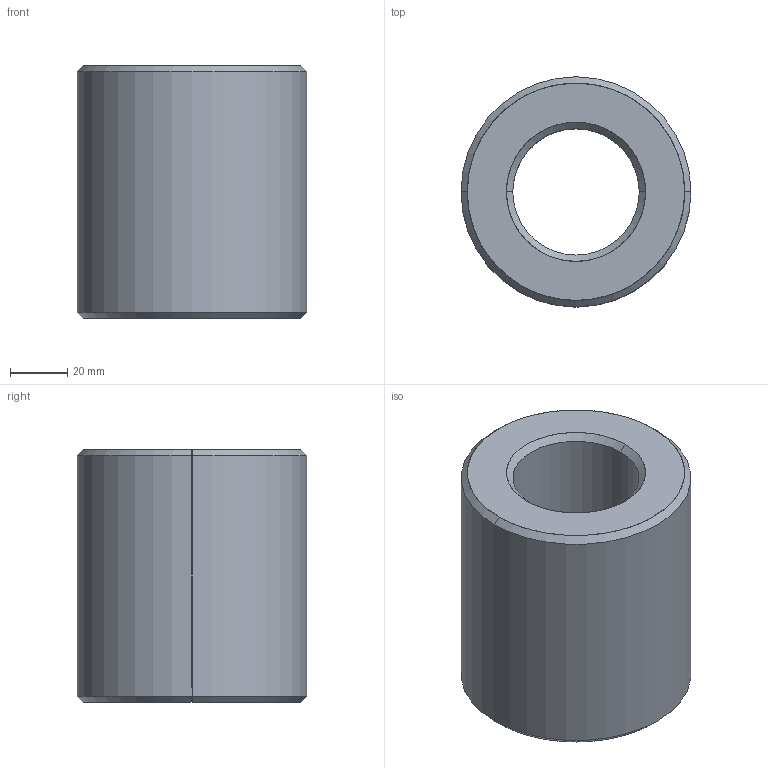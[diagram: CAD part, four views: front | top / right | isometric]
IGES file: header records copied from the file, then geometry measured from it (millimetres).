
Start section: SolidWorks IGES file using analytic representation for surfaces
Global section: file name: C:\Users\ianosborn\Desktop\L1330_v2\L1330_v2_20241024_IGES\L1330.R44-07.igs; native system: SolidWorks 2019; preprocessor: SolidWorks 2019; author: IanOsborn; date: 241024.102942; units: millimetre
Bounding box: 80 x 80 x 88 mm (x, y, z)
Surface area: 40289 mm2 (no closed solid volume)
Topology: 0 solids, 0 shells, 14 faces, 304 edges, 304 vertices
Faces by surface type: revolution 12, bspline 2
